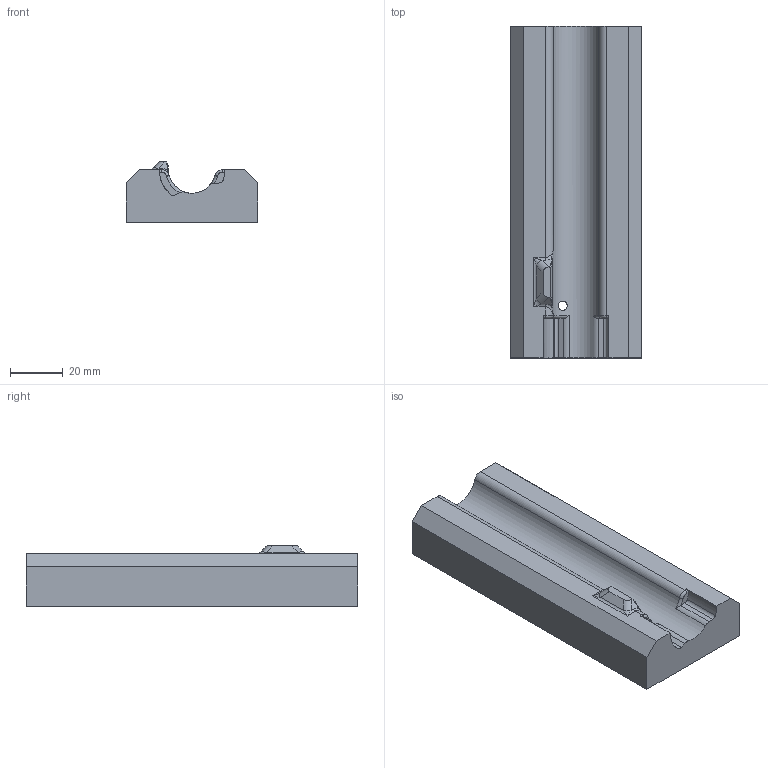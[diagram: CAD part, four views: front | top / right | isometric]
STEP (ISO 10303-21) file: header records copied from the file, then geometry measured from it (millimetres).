
FILE_DESCRIPTION(/* description */ (''),/* implementation_level */ '2;1');
FILE_NAME(/* name */ '999_0914_Vorrichtung.stp',/* time_stamp */ '2025-06-18T14:48:19+02:00',/* author */ (''),/* organization */ (''),/* preprocessor_version */ 'ST-DEVELOPER v18.101',/* originating_system */ 'SIEMENS PLM Software NX 2015',/* authorisation */ '');
FILE_SCHEMA (('AUTOMOTIVE_DESIGN { 1 0 10303 214 3 1 1 1 }'));
Length unit declared in the file: millimetre
Products named in the file (1): 999_0914_objects
Bounding box: 50 x 126.28 x 23 mm (x, y, z)
Volume: 105976.6 mm3; surface area: 19945.5 mm2
Topology: 1 solids, 1 shells, 61 faces, 157 edges, 94 vertices
Faces by surface type: cylinder 25, plane 19, bspline 11, torus 5, cone 1
Full cylindrical faces by diameter (mm): 3.55 x1, 7 x1
Entity records: 2048 total; most frequent: CARTESIAN_POINT 601, DIRECTION 302, ORIENTED_EDGE 292, EDGE_CURVE 146, AXIS2_PLACEMENT_3D 116, VERTEX_POINT 92, LINE 70, VECTOR 70
